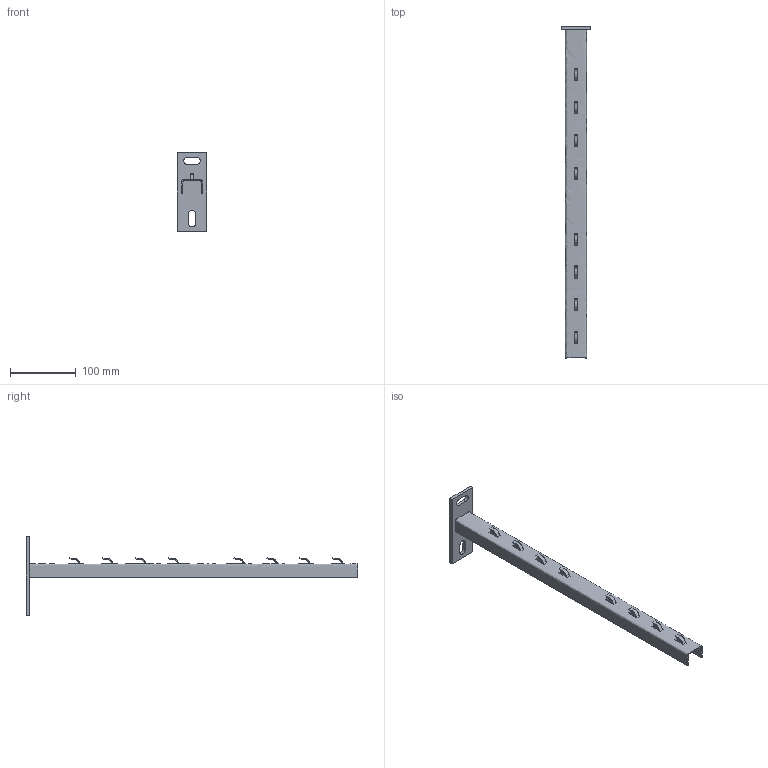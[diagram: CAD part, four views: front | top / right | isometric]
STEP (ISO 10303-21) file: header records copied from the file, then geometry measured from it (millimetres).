
FILE_DESCRIPTION(/* description */ (''),/* implementation_level */ '2;1');
FILE_NAME(/* name */ 'NPZM500',/* time_stamp */ '2013-11-22T10:39:32+01:00',/* author */ (''),/* organization */ (''),/* preprocessor_version */ 'ST-DEVELOPER v10',/* originating_system */ '',/* authorisation */ '');
FILE_SCHEMA (('AUTOMOTIVE_DESIGN_CC2'));
Length unit declared in the file: millimetre
Products named in the file (1): 1
Bounding box: 45 x 505 x 120 mm (x, y, z)
Volume: 91043.7 mm3; surface area: 87282.8 mm2
Topology: 10 solids, 10 shells, 160 faces, 452 edges, 312 vertices
Faces by surface type: bspline 150, plane 10
Entity records: 8154 total; most frequent: CARTESIAN_POINT 5613, ORIENTED_EDGE 840, EDGE_CURVE 420, VERTEX_POINT 280, B_SPLINE_CURVE_WITH_KNOTS 200, EDGE_LOOP 180, ADVANCED_FACE 160, FACE_OUTER_BOUND 160
